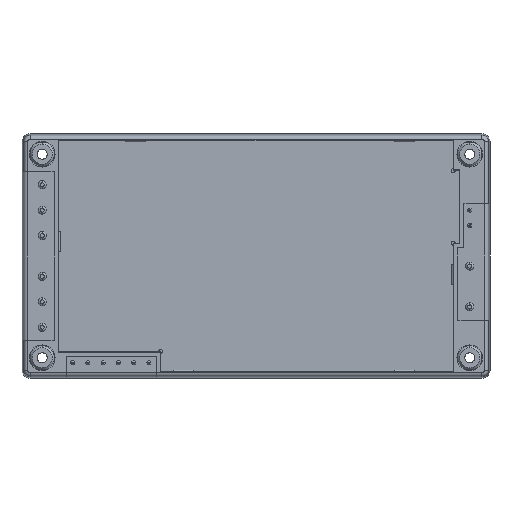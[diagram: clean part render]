
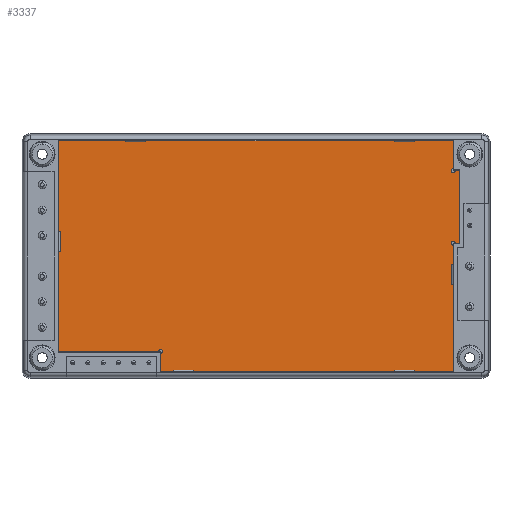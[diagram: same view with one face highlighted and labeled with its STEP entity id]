
A CAD part, front view. The second image highlights one B-rep face of the part: STEP entity #3337.
In plain terms, the highlighted planar face has unit normal (0, -1, 0).
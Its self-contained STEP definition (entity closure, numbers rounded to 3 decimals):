
#82 = CIRCLE ( 'NONE', #8480, 0.5 ) ;
#141 = DIRECTION ( 'NONE',  ( -1., 0., 0. ) ) ;
#740 = VERTEX_POINT ( 'NONE', #1480 ) ;
#876 = DIRECTION ( 'NONE',  ( 0., 1., 0. ) ) ;
#940 = CARTESIAN_POINT ( 'NONE',  ( -49.19, 0.47, 28.8 ) ) ;
#1215 = VERTEX_POINT ( 'NONE', #6202 ) ;
#1480 = CARTESIAN_POINT ( 'NONE',  ( -49.19, 0.47, -23.8 ) ) ;
#1550 = VERTEX_POINT ( 'NONE', #5414 ) ;
#1635 = VERTEX_POINT ( 'NONE', #2048 ) ;
#1702 = DIRECTION ( 'NONE',  ( 0., 1., 0. ) ) ;
#1729 = AXIS2_PLACEMENT_3D ( 'NONE', #7882, #1702, #8903 ) ;
#1991 = CARTESIAN_POINT ( 'NONE',  ( 49.21, 0.47, 21.8 ) ) ;
#2048 = CARTESIAN_POINT ( 'NONE',  ( -24.29, 0.47, -23.8 ) ) ;
#2237 = EDGE_CURVE ( 'NONE', #4264, #740, #8355, .T. ) ;
#2531 = ORIENTED_EDGE ( 'NONE', *, *, #9700, .T. ) ;
#2565 = DIRECTION ( 'NONE',  ( 0., 0., 1. ) ) ;
#2750 = VECTOR ( 'NONE', #4646, 1000. ) ;
#2989 = ORIENTED_EDGE ( 'NONE', *, *, #3477, .T. ) ;
#3337 = ADVANCED_FACE ( 'NONE', ( #9471 ), #13031, .T. ) ;
#3359 = LINE ( 'NONE', #6647, #2750 ) ;
#3477 = EDGE_CURVE ( 'NONE', #13333, #13038, #7656, .T. ) ;
#3531 = ORIENTED_EDGE ( 'NONE', *, *, #2237, .T. ) ;
#3554 = CARTESIAN_POINT ( 'NONE',  ( -49.19, 0.47, 28.8 ) ) ;
#3570 = VECTOR ( 'NONE', #6246, 1000. ) ;
#3704 = DIRECTION ( 'NONE',  ( 0., 0., 1. ) ) ;
#3851 = CARTESIAN_POINT ( 'NONE',  ( 49.21, 0.47, 21.3 ) ) ;
#3858 = AXIS2_PLACEMENT_3D ( 'NONE', #7039, #876, #8091 ) ;
#3974 = CARTESIAN_POINT ( 'NONE',  ( 49.71, 0.47, 3.2 ) ) ;
#4043 = CARTESIAN_POINT ( 'NONE',  ( 49.21, 0.47, 21.3 ) ) ;
#4079 = AXIS2_PLACEMENT_3D ( 'NONE', #7707, #8746, #2565 ) ;
#4115 = VECTOR ( 'NONE', #141, 1000. ) ;
#4128 = EDGE_CURVE ( 'NONE', #9912, #4722, #82, .T. ) ;
#4177 = CARTESIAN_POINT ( 'NONE',  ( 50.71, 0.47, 21.3 ) ) ;
#4264 = VERTEX_POINT ( 'NONE', #940 ) ;
#4278 = ORIENTED_EDGE ( 'NONE', *, *, #10073, .T. ) ;
#4439 = DIRECTION ( 'NONE',  ( 1., 0., 0. ) ) ;
#4470 = VERTEX_POINT ( 'NONE', #12664 ) ;
#4592 = EDGE_LOOP ( 'NONE', ( #7791, #4278, #13179, #12597, #2989, #11373, #2531, #10950, #11993, #10417, #12647, #3531, #8570, #9743 ) ) ;
#4646 = DIRECTION ( 'NONE',  ( 0., 0., -1. ) ) ;
#4707 = VERTEX_POINT ( 'NONE', #10311 ) ;
#4722 = VERTEX_POINT ( 'NONE', #10269 ) ;
#4739 = CIRCLE ( 'NONE', #5087, 0.5 ) ;
#4761 = DIRECTION ( 'NONE',  ( 0., 0., 1. ) ) ;
#4937 = VECTOR ( 'NONE', #4439, 1000. ) ;
#5037 = VECTOR ( 'NONE', #7709, 1000. ) ;
#5079 = DIRECTION ( 'NONE',  ( 0., 0., 1. ) ) ;
#5087 = AXIS2_PLACEMENT_3D ( 'NONE', #4043, #11297, #5079 ) ;
#5286 = EDGE_CURVE ( 'NONE', #5781, #4264, #8088, .T. ) ;
#5300 = VECTOR ( 'NONE', #7429, 1000. ) ;
#5315 = CARTESIAN_POINT ( 'NONE',  ( 49.21, 0.47, 2.7 ) ) ;
#5414 = CARTESIAN_POINT ( 'NONE',  ( -23.79, 0.47, -24.3 ) ) ;
#5781 = VERTEX_POINT ( 'NONE', #10131 ) ;
#5992 = DIRECTION ( 'NONE',  ( 0., 0., -1. ) ) ;
#6202 = CARTESIAN_POINT ( 'NONE',  ( -23.79, 0.47, -28.8 ) ) ;
#6246 = DIRECTION ( 'NONE',  ( 1., 0., 0. ) ) ;
#6270 = CIRCLE ( 'NONE', #3858, 0.5 ) ;
#6647 = CARTESIAN_POINT ( 'NONE',  ( -23.79, 0.47, -24.3 ) ) ;
#6660 = CARTESIAN_POINT ( 'NONE',  ( 50.71, 0.47, 3.2 ) ) ;
#7039 = CARTESIAN_POINT ( 'NONE',  ( -23.79, 0.47, -23.8 ) ) ;
#7428 = LINE ( 'NONE', #1991, #12954 ) ;
#7429 = DIRECTION ( 'NONE',  ( -1., 0., 0. ) ) ;
#7558 = CARTESIAN_POINT ( 'NONE',  ( 50.71, 0.47, 3.2 ) ) ;
#7656 = LINE ( 'NONE', #10639, #4937 ) ;
#7707 = CARTESIAN_POINT ( 'NONE',  ( 49.21, 0.47, 3.2 ) ) ;
#7709 = DIRECTION ( 'NONE',  ( 0., 0., 1. ) ) ;
#7738 = EDGE_CURVE ( 'NONE', #740, #1635, #9098, .T. ) ;
#7758 = VERTEX_POINT ( 'NONE', #5315 ) ;
#7791 = ORIENTED_EDGE ( 'NONE', *, *, #13120, .T. ) ;
#7882 = CARTESIAN_POINT ( 'NONE',  ( 49.21, 0.47, 3.2 ) ) ;
#7915 = CARTESIAN_POINT ( 'NONE',  ( -23.79, 0.47, -28.8 ) ) ;
#8075 = EDGE_CURVE ( 'NONE', #4470, #7758, #10260, .T. ) ;
#8088 = LINE ( 'NONE', #10539, #5300 ) ;
#8091 = DIRECTION ( 'NONE',  ( 0., 0., 1. ) ) ;
#8120 = LINE ( 'NONE', #6660, #5037 ) ;
#8140 = DIRECTION ( 'NONE',  ( 0., 0., 1. ) ) ;
#8338 = VERTEX_POINT ( 'NONE', #12751 ) ;
#8355 = LINE ( 'NONE', #3554, #10793 ) ;
#8410 = EDGE_CURVE ( 'NONE', #13038, #8338, #8120, .T. ) ;
#8480 = AXIS2_PLACEMENT_3D ( 'NONE', #3851, #10055, #3704 ) ;
#8570 = ORIENTED_EDGE ( 'NONE', *, *, #7738, .T. ) ;
#8586 = EDGE_CURVE ( 'NONE', #1635, #1550, #6270, .T. ) ;
#8661 = EDGE_CURVE ( 'NONE', #4722, #5781, #7428, .T. ) ;
#8746 = DIRECTION ( 'NONE',  ( 0., -1., 0. ) ) ;
#8903 = DIRECTION ( 'NONE',  ( 0., 0., 1. ) ) ;
#9098 = LINE ( 'NONE', #12502, #3570 ) ;
#9471 = FACE_OUTER_BOUND ( 'NONE', #4592, .T. ) ;
#9627 = EDGE_CURVE ( 'NONE', #4707, #9912, #4739, .T. ) ;
#9700 = EDGE_CURVE ( 'NONE', #8338, #4707, #12380, .T. ) ;
#9743 = ORIENTED_EDGE ( 'NONE', *, *, #8586, .T. ) ;
#9912 = VERTEX_POINT ( 'NONE', #10776 ) ;
#9924 = VECTOR ( 'NONE', #4761, 1000. ) ;
#10055 = DIRECTION ( 'NONE',  ( 0., 1., 0. ) ) ;
#10073 = EDGE_CURVE ( 'NONE', #1215, #4470, #11857, .T. ) ;
#10131 = CARTESIAN_POINT ( 'NONE',  ( 49.21, 0.47, 28.8 ) ) ;
#10260 = LINE ( 'NONE', #12003, #9924 ) ;
#10269 = CARTESIAN_POINT ( 'NONE',  ( 49.21, 0.47, 21.8 ) ) ;
#10311 = CARTESIAN_POINT ( 'NONE',  ( 49.71, 0.47, 21.3 ) ) ;
#10417 = ORIENTED_EDGE ( 'NONE', *, *, #8661, .T. ) ;
#10539 = CARTESIAN_POINT ( 'NONE',  ( 49.21, 0.47, 28.8 ) ) ;
#10566 = VECTOR ( 'NONE', #12051, 1000. ) ;
#10639 = CARTESIAN_POINT ( 'NONE',  ( 49.71, 0.47, 3.2 ) ) ;
#10776 = CARTESIAN_POINT ( 'NONE',  ( 49.21, 0.47, 20.8 ) ) ;
#10793 = VECTOR ( 'NONE', #5992, 1000. ) ;
#10950 = ORIENTED_EDGE ( 'NONE', *, *, #9627, .T. ) ;
#11297 = DIRECTION ( 'NONE',  ( 0., 1., 0. ) ) ;
#11373 = ORIENTED_EDGE ( 'NONE', *, *, #8410, .T. ) ;
#11763 = EDGE_CURVE ( 'NONE', #7758, #13333, #13228, .T. ) ;
#11857 = LINE ( 'NONE', #7915, #10566 ) ;
#11993 = ORIENTED_EDGE ( 'NONE', *, *, #4128, .T. ) ;
#12003 = CARTESIAN_POINT ( 'NONE',  ( 49.21, 0.47, -28.8 ) ) ;
#12051 = DIRECTION ( 'NONE',  ( 1., 0., 0. ) ) ;
#12380 = LINE ( 'NONE', #4177, #4115 ) ;
#12502 = CARTESIAN_POINT ( 'NONE',  ( -49.19, 0.47, -23.8 ) ) ;
#12597 = ORIENTED_EDGE ( 'NONE', *, *, #11763, .T. ) ;
#12647 = ORIENTED_EDGE ( 'NONE', *, *, #5286, .T. ) ;
#12664 = CARTESIAN_POINT ( 'NONE',  ( 49.21, 0.47, -28.8 ) ) ;
#12751 = CARTESIAN_POINT ( 'NONE',  ( 50.71, 0.47, 21.3 ) ) ;
#12954 = VECTOR ( 'NONE', #8140, 1000. ) ;
#13031 = PLANE ( 'NONE',  #4079 ) ;
#13038 = VERTEX_POINT ( 'NONE', #7558 ) ;
#13120 = EDGE_CURVE ( 'NONE', #1550, #1215, #3359, .T. ) ;
#13179 = ORIENTED_EDGE ( 'NONE', *, *, #8075, .T. ) ;
#13228 = CIRCLE ( 'NONE', #1729, 0.5 ) ;
#13333 = VERTEX_POINT ( 'NONE', #3974 ) ;
